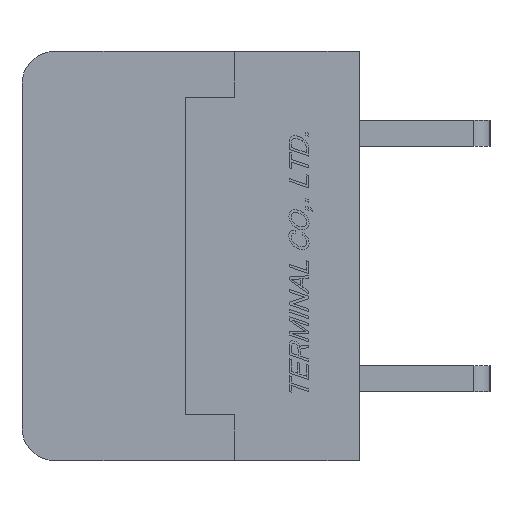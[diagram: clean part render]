
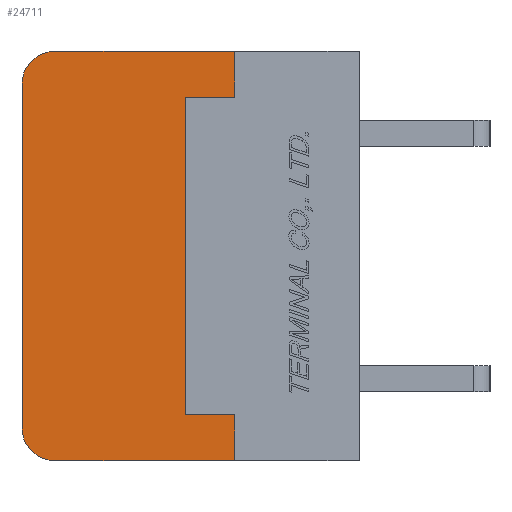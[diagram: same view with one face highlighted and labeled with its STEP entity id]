
A CAD part, left-side view. The second image highlights one B-rep face of the part: STEP entity #24711.
In plain terms, the highlighted planar face has unit normal (-1, 0, 0).
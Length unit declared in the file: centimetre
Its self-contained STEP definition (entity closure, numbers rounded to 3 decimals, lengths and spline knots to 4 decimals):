
#1309=CIRCLE('',#41636,0.1);
#1311=CIRCLE('',#41639,0.1);
#3454=VERTEX_POINT('',#38501);
#3455=VERTEX_POINT('',#38503);
#3457=VERTEX_POINT('',#38509);
#3459=VERTEX_POINT('',#38515);
#3460=VERTEX_POINT('',#38522);
#3461=VERTEX_POINT('',#38523);
#3462=VERTEX_POINT('',#38526);
#3463=VERTEX_POINT('',#38528);
#3464=VERTEX_POINT('',#38530);
#3465=VERTEX_POINT('',#38532);
#6086=VECTOR('',#30520,1.);
#6092=VECTOR('',#30540,1.);
#6093=VECTOR('',#30541,1.);
#6094=VECTOR('',#30542,1.);
#6095=VECTOR('',#30543,1.);
#6096=VECTOR('',#30544,1.);
#6097=VECTOR('',#30545,1.);
#6098=VECTOR('',#30546,1.);
#8786=LINE('',#38502,#6086);
#8792=LINE('',#38521,#6092);
#8793=LINE('',#38524,#6093);
#8794=LINE('',#38525,#6094);
#8795=LINE('',#38527,#6095);
#8796=LINE('',#38529,#6096);
#8797=LINE('',#38531,#6097);
#8798=LINE('',#38533,#6098);
#12430=EDGE_CURVE('',#3454,#3455,#8786,.T.);
#12434=EDGE_CURVE('',#3457,#3454,#1309,.T.);
#12436=EDGE_CURVE('',#3455,#3459,#1311,.T.);
#12440=EDGE_CURVE('',#3460,#3461,#8792,.T.);
#12441=EDGE_CURVE('',#3459,#3460,#8793,.T.);
#12442=EDGE_CURVE('',#3462,#3457,#8794,.T.);
#12443=EDGE_CURVE('',#3463,#3462,#8795,.T.);
#12444=EDGE_CURVE('',#3464,#3463,#8796,.T.);
#12445=EDGE_CURVE('',#3465,#3464,#8797,.T.);
#12446=EDGE_CURVE('',#3461,#3465,#8798,.T.);
#19260=ORIENTED_EDGE('',*,*,#12440,.F.);
#19261=ORIENTED_EDGE('',*,*,#12441,.F.);
#19262=ORIENTED_EDGE('',*,*,#12436,.F.);
#19263=ORIENTED_EDGE('',*,*,#12430,.F.);
#19264=ORIENTED_EDGE('',*,*,#12434,.F.);
#19265=ORIENTED_EDGE('',*,*,#12442,.F.);
#19266=ORIENTED_EDGE('',*,*,#12443,.F.);
#19267=ORIENTED_EDGE('',*,*,#12444,.F.);
#19268=ORIENTED_EDGE('',*,*,#12445,.F.);
#19269=ORIENTED_EDGE('',*,*,#12446,.F.);
#21749=EDGE_LOOP('',(#19260,#19261,#19262,#19263,#19264,#19265,#19266,#19267,
#19268,#19269));
#23275=FACE_BOUND('',#21749,.T.);
#24711=ADVANCED_FACE('',(#23275),#25739,.F.);
#25739=PLANE('',#41641);
#30520=DIRECTION('',(0.,0.,1.));
#30527=DIRECTION('',(1.,0.,0.));
#30528=DIRECTION('',(0.,0.,-0.1));
#30533=DIRECTION('',(1.,0.,0.));
#30534=DIRECTION('',(0.,0.,-0.1));
#30539=DIRECTION('',(1.,0.,0.));
#30540=DIRECTION('',(0.,0.,-1.));
#30541=DIRECTION('',(0.,-1.,0.));
#30542=DIRECTION('',(0.,1.,0.));
#30543=DIRECTION('',(0.,0.,-1.));
#30544=DIRECTION('',(0.,-1.,0.));
#30545=DIRECTION('',(0.,0.,-1.));
#30546=DIRECTION('',(0.,1.,0.));
#38501=CARTESIAN_POINT('',(-0.762,1.03,-0.525));
#38502=CARTESIAN_POINT('',(-0.762,1.03,-0.525));
#38503=CARTESIAN_POINT('',(-0.762,1.03,0.525));
#38509=CARTESIAN_POINT('',(-0.762,0.93,-0.625));
#38510=CARTESIAN_POINT('',(-0.762,0.93,-0.525));
#38514=CARTESIAN_POINT('',(-0.762,0.93,0.525));
#38515=CARTESIAN_POINT('',(-0.762,0.93,0.625));
#38520=CARTESIAN_POINT('',(-0.762,0.5047,0.));
#38521=CARTESIAN_POINT('',(-0.762,0.38,0.625));
#38522=CARTESIAN_POINT('',(-0.762,0.38,0.625));
#38523=CARTESIAN_POINT('',(-0.762,0.38,0.485));
#38524=CARTESIAN_POINT('',(-0.762,0.93,0.625));
#38525=CARTESIAN_POINT('',(-0.762,0.,-0.625));
#38526=CARTESIAN_POINT('',(-0.762,0.38,-0.625));
#38527=CARTESIAN_POINT('',(-0.762,0.38,-0.485));
#38528=CARTESIAN_POINT('',(-0.762,0.38,-0.485));
#38529=CARTESIAN_POINT('',(-0.762,0.53,-0.485));
#38530=CARTESIAN_POINT('',(-0.762,0.53,-0.485));
#38531=CARTESIAN_POINT('',(-0.762,0.53,0.485));
#38532=CARTESIAN_POINT('',(-0.762,0.53,0.485));
#38533=CARTESIAN_POINT('',(-0.762,0.38,0.485));
#41636=AXIS2_PLACEMENT_3D('',#38510,#30527,#30528);
#41639=AXIS2_PLACEMENT_3D('',#38514,#30533,#30534);
#41641=AXIS2_PLACEMENT_3D('',#38520,#30539,$);
